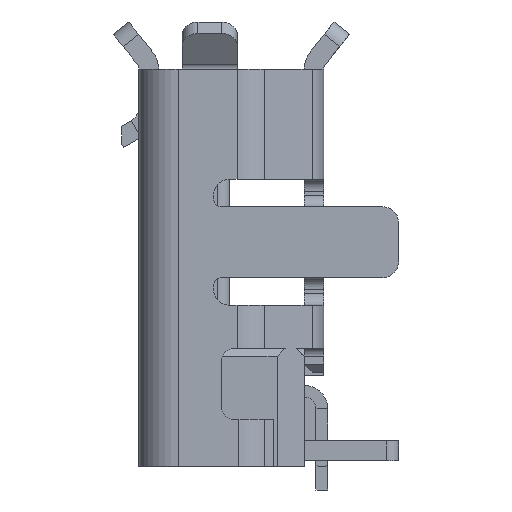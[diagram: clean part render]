
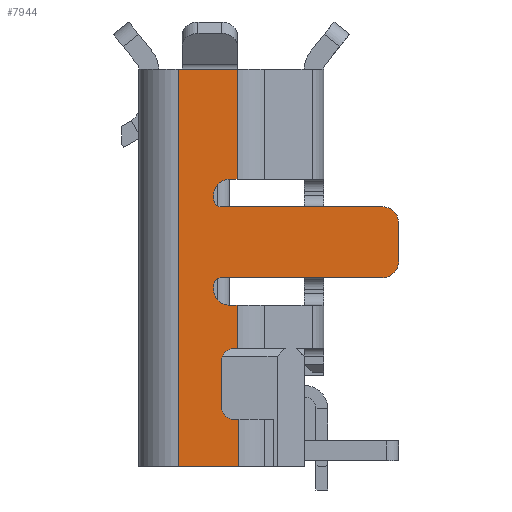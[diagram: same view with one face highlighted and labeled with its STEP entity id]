
A CAD part, left-side view. The second image highlights one B-rep face of the part: STEP entity #7944.
In plain terms, the highlighted planar face has unit normal (-1, 0, 0).
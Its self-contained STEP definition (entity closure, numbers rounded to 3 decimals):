
#1249=DIRECTION('',(0.,-1.,0.));
#1250=VECTOR('',#1249,0.746);
#1251=CARTESIAN_POINT('',(-3.7,-0.2,
3.55));
#1252=LINE('',#1251,#1250);
#1253=DIRECTION('',(0.,-1.,0.));
#1254=VECTOR('',#1253,0.096);
#1255=CARTESIAN_POINT('',(-3.7,-0.85,2.15));
#1256=LINE('',#1255,#1254);
#1257=CARTESIAN_POINT('',(-3.7,-0.85,1.95));
#1258=DIRECTION('',(1.,0.,0.));
#1259=DIRECTION('',(0.,1.,0.));
#1260=AXIS2_PLACEMENT_3D('',#1257,#1258,#1259);
#1262=DIRECTION('',(0.,0.,1.));
#1263=VECTOR('',#1262,0.05);
#1264=CARTESIAN_POINT('',(-3.7,-0.65,1.9));
#1265=LINE('',#1264,#1263);
#1266=CARTESIAN_POINT('',(-3.7,-0.75,1.9));
#1267=DIRECTION('',(1.,0.,0.));
#1268=DIRECTION('',(0.,0.,-1.));
#1269=AXIS2_PLACEMENT_3D('',#1266,#1267,#1268);
#1271=CARTESIAN_POINT('',(-3.7,-2.8,1.6));
#1272=DIRECTION('',(-1.,0.,0.));
#1273=DIRECTION('',(0.,-1.,0.));
#1274=AXIS2_PLACEMENT_3D('',#1271,#1272,#1273);
#1276=CARTESIAN_POINT('',(-3.7,-2.8,1.1));
#1277=DIRECTION('',(-1.,0.,0.));
#1278=DIRECTION('',(0.,0.,-1.));
#1279=AXIS2_PLACEMENT_3D('',#1276,#1277,#1278);
#1281=CARTESIAN_POINT('',(-3.7,-0.75,0.8));
#1282=DIRECTION('',(1.,0.,0.));
#1283=DIRECTION('',(0.,1.,0.));
#1284=AXIS2_PLACEMENT_3D('',#1281,#1282,#1283);
#1286=DIRECTION('',(0.,0.,1.));
#1287=VECTOR('',#1286,0.05);
#1288=CARTESIAN_POINT('',(-3.7,-0.65,0.75));
#1289=LINE('',#1288,#1287);
#1290=CARTESIAN_POINT('',(-3.7,-0.85,0.75));
#1291=DIRECTION('',(1.,0.,0.));
#1292=DIRECTION('',(0.,0.,-1.));
#1293=AXIS2_PLACEMENT_3D('',#1290,#1291,#1292);
#1295=DIRECTION('',(0.,1.,0.));
#1296=VECTOR('',#1295,0.096);
#1297=CARTESIAN_POINT('',(-3.7,-0.946,0.55));
#1298=LINE('',#1297,#1296);
#1299=DIRECTION('',(0.,-1.,0.));
#1300=VECTOR('',#1299,0.046);
#1301=CARTESIAN_POINT('',(-3.7,-0.9,0.));
#1302=LINE('',#1301,#1300);
#1303=CARTESIAN_POINT('',(-3.7,-0.9,-0.15));
#1304=DIRECTION('',(1.,0.,0.));
#1305=DIRECTION('',(0.,1.,0.));
#1306=AXIS2_PLACEMENT_3D('',#1303,#1304,#1305);
#1308=DIRECTION('',(0.,0.,1.));
#1309=VECTOR('',#1308,0.6);
#1310=CARTESIAN_POINT('',(-3.7,-0.75,-0.75));
#1311=LINE('',#1310,#1309);
#1312=CARTESIAN_POINT('',(-3.7,-0.9,-0.75));
#1313=DIRECTION('',(1.,0.,0.));
#1314=DIRECTION('',(0.,0.,-1.));
#1315=AXIS2_PLACEMENT_3D('',#1312,#1313,#1314);
#1317=DIRECTION('',(-0.004,1.,0.));
#1318=VECTOR('',#1317,0.07);
#1319=CARTESIAN_POINT('',(-3.7,-0.97,
-0.9));
#1320=LINE('',#1319,#1318);
#1321=DIRECTION('',(0.001,-1.,0.));
#1322=VECTOR('',#1321,0.22);
#1323=CARTESIAN_POINT('',(-3.7,-0.75,-1.5));
#1324=LINE('',#1323,#1322);
#1325=DIRECTION('',(0.,-1.,0.));
#1326=VECTOR('',#1325,0.55);
#1327=CARTESIAN_POINT('',(-3.7,-0.2,-1.5));
#1328=LINE('',#1327,#1326);
#1329=DIRECTION('',(0.,0.,1.));
#1330=VECTOR('',#1329,5.05);
#1331=CARTESIAN_POINT('',(-3.7,-0.2,-1.5));
#1332=LINE('',#1331,#1330);
#1338=DIRECTION('',(0.,0.,1.));
#1339=VECTOR('',#1338,1.4);
#1340=CARTESIAN_POINT('',(-3.7,-0.946,2.15));
#1341=LINE('',#1340,#1339);
#2765=DIRECTION('',(0.,1.,0.));
#2766=VECTOR('',#2765,2.05);
#2767=CARTESIAN_POINT('',(-3.7,-2.8,0.9));
#2768=LINE('',#2767,#2766);
#2777=DIRECTION('',(0.,0.,-1.));
#2778=VECTOR('',#2777,0.5);
#2779=CARTESIAN_POINT('',(-3.7,-3.,1.6));
#2780=LINE('',#2779,#2778);
#2789=DIRECTION('',(0.,-1.,0.));
#2790=VECTOR('',#2789,2.05);
#2791=CARTESIAN_POINT('',(-3.7,-0.75,1.8));
#2792=LINE('',#2791,#2790);
#3017=DIRECTION('',(0.,0.,-1.));
#3018=VECTOR('',#3017,0.6);
#3019=CARTESIAN_POINT('',(-3.7,-0.97,
-0.9));
#3020=LINE('',#3019,#3018);
#3021=DIRECTION('',(0.,0.,-1.));
#3022=VECTOR('',#3021,0.55);
#3023=CARTESIAN_POINT('',(-3.7,-0.946,0.55));
#3024=LINE('',#3023,#3022);
#5317=CARTESIAN_POINT('',(-3.7,-0.946,0.55));
#5318=CARTESIAN_POINT('',(-3.7,-0.946,
0.));
#5319=VERTEX_POINT('',#5317);
#5320=VERTEX_POINT('',#5318);
#5549=CARTESIAN_POINT('',(-3.7,-2.8,0.9));
#5550=CARTESIAN_POINT('',(-3.7,-0.75,0.9));
#5551=VERTEX_POINT('',#5549);
#5552=VERTEX_POINT('',#5550);
#5553=CARTESIAN_POINT('',(-3.7,-3.,1.1));
#5554=VERTEX_POINT('',#5553);
#5555=CARTESIAN_POINT('',(-3.7,-3.,1.6));
#5556=VERTEX_POINT('',#5555);
#5557=CARTESIAN_POINT('',(-3.7,-2.8,1.8));
#5558=VERTEX_POINT('',#5557);
#5559=CARTESIAN_POINT('',(-3.7,-0.75,1.8));
#5560=VERTEX_POINT('',#5559);
#5561=CARTESIAN_POINT('',(-3.7,-0.65,1.9));
#5562=VERTEX_POINT('',#5561);
#5563=CARTESIAN_POINT('',(-3.7,-0.65,1.95));
#5564=VERTEX_POINT('',#5563);
#5565=CARTESIAN_POINT('',(-3.7,-0.85,2.15));
#5566=VERTEX_POINT('',#5565);
#5567=CARTESIAN_POINT('',(-3.7,-0.946,2.15));
#5568=VERTEX_POINT('',#5567);
#5569=CARTESIAN_POINT('',(-3.7,-0.2,-1.5));
#5570=CARTESIAN_POINT('',(-3.7,-0.75,-1.5));
#5571=VERTEX_POINT('',#5569);
#5572=VERTEX_POINT('',#5570);
#5573=CARTESIAN_POINT('',(-3.7,-0.97,
-1.5));
#5574=VERTEX_POINT('',#5573);
#5575=CARTESIAN_POINT('',(-3.7,-0.97,
-0.9));
#5576=VERTEX_POINT('',#5575);
#5577=CARTESIAN_POINT('',(-3.7,-0.9,
-0.9));
#5578=VERTEX_POINT('',#5577);
#5579=CARTESIAN_POINT('',(-3.7,-0.75,-0.75));
#5580=VERTEX_POINT('',#5579);
#5581=CARTESIAN_POINT('',(-3.7,-0.75,-0.15));
#5582=VERTEX_POINT('',#5581);
#5583=CARTESIAN_POINT('',(-3.7,-0.9,0.));
#5584=VERTEX_POINT('',#5583);
#5585=CARTESIAN_POINT('',(-3.7,-0.85,0.55));
#5586=VERTEX_POINT('',#5585);
#5587=CARTESIAN_POINT('',(-3.7,-0.65,0.75));
#5588=VERTEX_POINT('',#5587);
#5589=CARTESIAN_POINT('',(-3.7,-0.65,0.8));
#5590=VERTEX_POINT('',#5589);
#6308=CARTESIAN_POINT('',(-3.7,-0.2,
3.55));
#6309=VERTEX_POINT('',#6308);
#6310=CARTESIAN_POINT('',(-3.7,-0.946,
3.55));
#6311=VERTEX_POINT('',#6310);
#7889=CARTESIAN_POINT('',(-3.7,0.,0.));
#7890=DIRECTION('',(1.,0.,0.));
#7891=DIRECTION('',(0.,1.,0.));
#7892=AXIS2_PLACEMENT_3D('',#7889,#7890,#7891);
#7893=PLANE('',#7892);
#7894=ORIENTED_EDGE('',*,*,#7421,.T.);
#7896=ORIENTED_EDGE('',*,*,#7895,.F.);
#7898=ORIENTED_EDGE('',*,*,#7897,.F.);
#7900=ORIENTED_EDGE('',*,*,#7899,.F.);
#7902=ORIENTED_EDGE('',*,*,#7901,.F.);
#7904=ORIENTED_EDGE('',*,*,#7903,.F.);
#7906=ORIENTED_EDGE('',*,*,#7905,.T.);
#7908=ORIENTED_EDGE('',*,*,#7907,.F.);
#7910=ORIENTED_EDGE('',*,*,#7909,.T.);
#7912=ORIENTED_EDGE('',*,*,#7911,.F.);
#7914=ORIENTED_EDGE('',*,*,#7913,.T.);
#7916=ORIENTED_EDGE('',*,*,#7915,.F.);
#7918=ORIENTED_EDGE('',*,*,#7917,.F.);
#7920=ORIENTED_EDGE('',*,*,#7919,.F.);
#7922=ORIENTED_EDGE('',*,*,#7921,.F.);
#7924=ORIENTED_EDGE('',*,*,#7923,.T.);
#7926=ORIENTED_EDGE('',*,*,#7925,.F.);
#7928=ORIENTED_EDGE('',*,*,#7927,.F.);
#7930=ORIENTED_EDGE('',*,*,#7929,.F.);
#7932=ORIENTED_EDGE('',*,*,#7931,.F.);
#7934=ORIENTED_EDGE('',*,*,#7933,.F.);
#7936=ORIENTED_EDGE('',*,*,#7935,.T.);
#7938=ORIENTED_EDGE('',*,*,#7937,.F.);
#7940=ORIENTED_EDGE('',*,*,#7939,.F.);
#7941=ORIENTED_EDGE('',*,*,#7882,.T.);
#7942=EDGE_LOOP('',(#7894,#7896,#7898,#7900,#7902,#7904,#7906,#7908,#7910,#7912,
#7914,#7916,#7918,#7920,#7922,#7924,#7926,#7928,#7930,#7932,#7934,#7936,#7938,
#7940,#7941));
#7943=FACE_OUTER_BOUND('',#7942,.F.);
#1261=CIRCLE('',#1260,0.2);
#1270=CIRCLE('',#1269,0.1);
#1275=CIRCLE('',#1274,0.2);
#1280=CIRCLE('',#1279,0.2);
#1285=CIRCLE('',#1284,0.1);
#1294=CIRCLE('',#1293,0.2);
#1307=CIRCLE('',#1306,0.15);
#1316=CIRCLE('',#1315,0.15);
#7421=EDGE_CURVE('',#6309,#6311,#1252,.T.);
#7882=EDGE_CURVE('',#5571,#6309,#1332,.T.);
#7895=EDGE_CURVE('',#5568,#6311,#1341,.T.);
#7897=EDGE_CURVE('',#5566,#5568,#1256,.T.);
#7899=EDGE_CURVE('',#5564,#5566,#1261,.T.);
#7901=EDGE_CURVE('',#5562,#5564,#1265,.T.);
#7903=EDGE_CURVE('',#5560,#5562,#1270,.T.);
#7905=EDGE_CURVE('',#5560,#5558,#2792,.T.);
#7907=EDGE_CURVE('',#5556,#5558,#1275,.T.);
#7909=EDGE_CURVE('',#5556,#5554,#2780,.T.);
#7911=EDGE_CURVE('',#5551,#5554,#1280,.T.);
#7913=EDGE_CURVE('',#5551,#5552,#2768,.T.);
#7915=EDGE_CURVE('',#5590,#5552,#1285,.T.);
#7917=EDGE_CURVE('',#5588,#5590,#1289,.T.);
#7919=EDGE_CURVE('',#5586,#5588,#1294,.T.);
#7921=EDGE_CURVE('',#5319,#5586,#1298,.T.);
#7923=EDGE_CURVE('',#5319,#5320,#3024,.T.);
#7925=EDGE_CURVE('',#5584,#5320,#1302,.T.);
#7927=EDGE_CURVE('',#5582,#5584,#1307,.T.);
#7929=EDGE_CURVE('',#5580,#5582,#1311,.T.);
#7931=EDGE_CURVE('',#5578,#5580,#1316,.T.);
#7933=EDGE_CURVE('',#5576,#5578,#1320,.T.);
#7935=EDGE_CURVE('',#5576,#5574,#3020,.T.);
#7937=EDGE_CURVE('',#5572,#5574,#1324,.T.);
#7939=EDGE_CURVE('',#5571,#5572,#1328,.T.);
#7944=ADVANCED_FACE('',(#7943),#7893,.F.);
